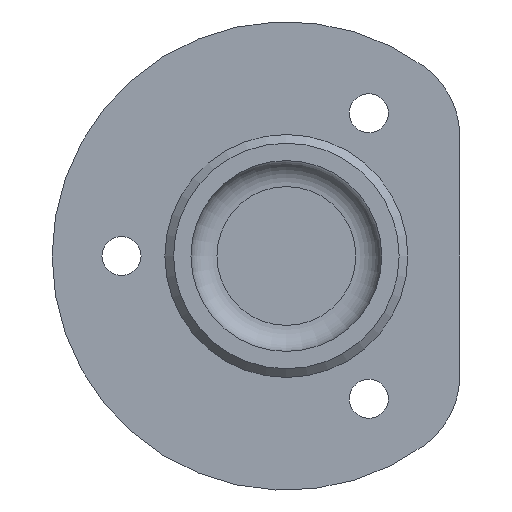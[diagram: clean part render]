
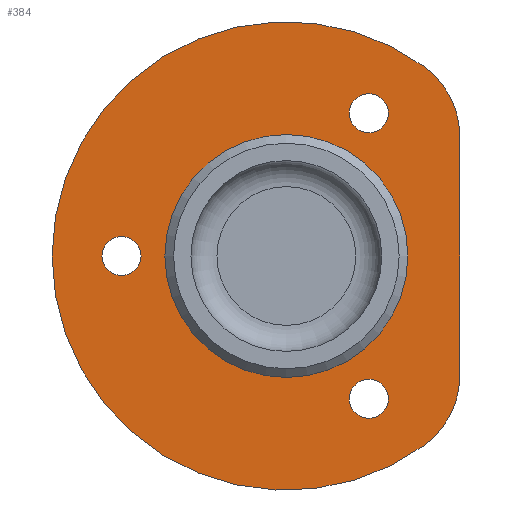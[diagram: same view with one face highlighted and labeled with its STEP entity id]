
A CAD part, left-side view. The second image highlights one B-rep face of the part: STEP entity #384.
In plain terms, the highlighted planar face has unit normal (-1, 0, 0).
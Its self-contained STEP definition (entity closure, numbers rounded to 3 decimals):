
#38=FACE_BOUND('',#107,.T.);
#39=FACE_BOUND('',#108,.T.);
#40=FACE_BOUND('',#109,.T.);
#41=FACE_BOUND('',#110,.T.);
#49=PLANE('',#466);
#74=FACE_OUTER_BOUND('',#106,.T.);
#106=EDGE_LOOP('',(#351,#352,#353,#354));
#107=EDGE_LOOP('',(#355));
#108=EDGE_LOOP('',(#356));
#109=EDGE_LOOP('',(#357));
#110=EDGE_LOOP('',(#358));
#120=LINE('',#676,#136);
#136=VECTOR('',#558,10.);
#147=CIRCLE('',#415,14.);
#162=CIRCLE('',#438,10.);
#163=CIRCLE('',#440,27.);
#167=CIRCLE('',#446,10.);
#170=CIRCLE('',#453,2.25);
#173=CIRCLE('',#459,2.25);
#176=CIRCLE('',#465,2.25);
#181=VERTEX_POINT('',#616);
#193=VERTEX_POINT('',#655);
#194=VERTEX_POINT('',#657);
#195=VERTEX_POINT('',#661);
#199=VERTEX_POINT('',#672);
#202=VERTEX_POINT('',#685);
#205=VERTEX_POINT('',#696);
#208=VERTEX_POINT('',#707);
#214=EDGE_CURVE('',#181,#181,#147,.T.);
#234=EDGE_CURVE('',#193,#194,#162,.T.);
#237=EDGE_CURVE('',#195,#193,#163,.T.);
#242=EDGE_CURVE('',#199,#195,#167,.T.);
#243=EDGE_CURVE('',#199,#194,#120,.T.);
#248=EDGE_CURVE('',#202,#202,#170,.T.);
#253=EDGE_CURVE('',#205,#205,#173,.T.);
#258=EDGE_CURVE('',#208,#208,#176,.T.);
#351=ORIENTED_EDGE('',*,*,#242,.F.);
#352=ORIENTED_EDGE('',*,*,#243,.T.);
#353=ORIENTED_EDGE('',*,*,#234,.F.);
#354=ORIENTED_EDGE('',*,*,#237,.F.);
#355=ORIENTED_EDGE('',*,*,#248,.T.);
#356=ORIENTED_EDGE('',*,*,#253,.T.);
#357=ORIENTED_EDGE('',*,*,#258,.T.);
#358=ORIENTED_EDGE('',*,*,#214,.T.);
#384=ADVANCED_FACE('',(#74,#38,#39,#40,#41),#49,.T.);
#415=AXIS2_PLACEMENT_3D('',#617,#484,#485);
#438=AXIS2_PLACEMENT_3D('',#658,#535,#536);
#440=AXIS2_PLACEMENT_3D('',#663,#541,#542);
#446=AXIS2_PLACEMENT_3D('',#674,#554,#555);
#453=AXIS2_PLACEMENT_3D('',#687,#571,#572);
#459=AXIS2_PLACEMENT_3D('',#698,#585,#586);
#465=AXIS2_PLACEMENT_3D('',#709,#599,#600);
#466=AXIS2_PLACEMENT_3D('',#710,#601,#602);
#484=DIRECTION('center_axis',(1.,0.,0.));
#485=DIRECTION('ref_axis',(0.,0.,-1.));
#535=DIRECTION('center_axis',(1.,0.,0.));
#536=DIRECTION('ref_axis',(0.,-0.891,0.454));
#541=DIRECTION('center_axis',(1.,0.,0.));
#542=DIRECTION('ref_axis',(0.,0.,-1.));
#554=DIRECTION('center_axis',(1.,0.,0.));
#555=DIRECTION('ref_axis',(0.,-0.891,-0.454));
#558=DIRECTION('',(0.,0.,1.));
#571=DIRECTION('center_axis',(1.,0.,0.));
#572=DIRECTION('ref_axis',(0.,-0.866,0.5));
#585=DIRECTION('center_axis',(1.,0.,0.));
#586=DIRECTION('ref_axis',(0.,0.866,0.5));
#599=DIRECTION('center_axis',(1.,0.,0.));
#600=DIRECTION('ref_axis',(0.,0.,-1.));
#601=DIRECTION('center_axis',(-1.,0.,0.));
#602=DIRECTION('ref_axis',(0.,0.,1.));
#616=CARTESIAN_POINT('',(4.,-14.,0.));
#617=CARTESIAN_POINT('Origin',(4.,0.,0.));
#655=CARTESIAN_POINT('',(4.,-15.882,21.835));
#657=CARTESIAN_POINT('',(4.,-20.,13.748));
#658=CARTESIAN_POINT('Origin',(4.,-10.,13.748));
#661=CARTESIAN_POINT('',(4.,-15.882,-21.835));
#663=CARTESIAN_POINT('Origin',(4.,0.,0.));
#672=CARTESIAN_POINT('',(4.,-20.,-13.748));
#674=CARTESIAN_POINT('Origin',(4.,-10.,-13.748));
#676=CARTESIAN_POINT('',(4.,-20.,9.069));
#685=CARTESIAN_POINT('',(4.,-7.551,-17.579));
#687=CARTESIAN_POINT('Origin',(4.,-9.5,-16.454));
#696=CARTESIAN_POINT('',(4.,-11.449,15.329));
#698=CARTESIAN_POINT('Origin',(4.,-9.5,16.454));
#707=CARTESIAN_POINT('',(4.,19.,2.25));
#709=CARTESIAN_POINT('Origin',(4.,19.,0.));
#710=CARTESIAN_POINT('Origin',(4.,27.,0.));
